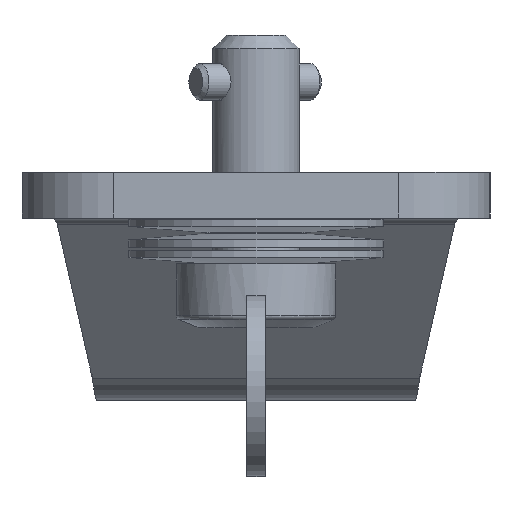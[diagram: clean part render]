
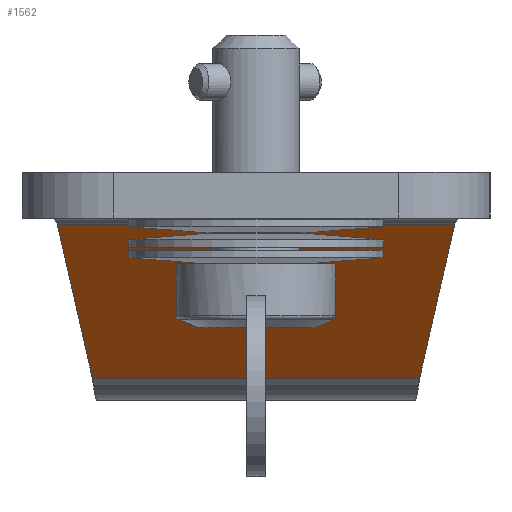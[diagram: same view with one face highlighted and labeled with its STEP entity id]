
A CAD part, left-side view. The second image highlights one B-rep face of the part: STEP entity #1562.
In plain terms, the highlighted planar face has unit normal (-0.766, 0, -0.643).
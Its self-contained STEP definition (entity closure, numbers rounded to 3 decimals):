
#154=LINE('',#2707,#262);
#159=LINE('',#2717,#267);
#161=LINE('',#2721,#269);
#162=LINE('',#2722,#270);
#262=VECTOR('',#2231,1000.);
#267=VECTOR('',#2240,1000.);
#269=VECTOR('',#2244,1000.);
#270=VECTOR('',#2245,1000.);
#380=PLANE('',#1803);
#754=ORIENTED_EDGE('',*,*,#1007,.T.);
#755=ORIENTED_EDGE('',*,*,#1000,.T.);
#756=ORIENTED_EDGE('',*,*,#1008,.F.);
#757=ORIENTED_EDGE('',*,*,#1005,.T.);
#1000=EDGE_CURVE('',#1150,#1153,#154,.T.);
#1005=EDGE_CURVE('',#1157,#1156,#159,.T.);
#1007=EDGE_CURVE('',#1156,#1150,#161,.T.);
#1008=EDGE_CURVE('',#1157,#1153,#162,.T.);
#1150=VERTEX_POINT('',#2701);
#1153=VERTEX_POINT('',#2706);
#1156=VERTEX_POINT('',#2716);
#1157=VERTEX_POINT('',#2718);
#1332=EDGE_LOOP('',(#754,#755,#756,#757));
#1458=FACE_BOUND('',#1332,.T.);
#1562=ADVANCED_FACE('',(#1458),#380,.F.);
#1803=AXIS2_PLACEMENT_3D('',#2720,#2242,#2243);
#2231=DIRECTION('',(0.633,-0.172,-0.755));
#2240=DIRECTION('',(-0.633,-0.172,0.755));
#2242=DIRECTION('',(0.766,0.,0.643));
#2243=DIRECTION('',(0.643,0.,-0.766));
#2244=DIRECTION('',(0.,1.,0.));
#2245=DIRECTION('',(0.,1.,0.));
#2701=CARTESIAN_POINT('',(-51.732,47.739,-5.714));
#2706=CARTESIAN_POINT('',(-37.648,43.904,-22.5));
#2707=CARTESIAN_POINT('',(-30.869,42.059,-30.578));
#2716=CARTESIAN_POINT('',(-51.732,4.261,-5.714));
#2717=CARTESIAN_POINT('',(-36.545,8.396,-23.814));
#2718=CARTESIAN_POINT('',(-37.648,8.096,-22.5));
#2720=CARTESIAN_POINT('',(-53.83,0.,-3.214));
#2721=CARTESIAN_POINT('',(-51.732,0.,-5.714));
#2722=CARTESIAN_POINT('',(-37.648,0.,-22.5));
